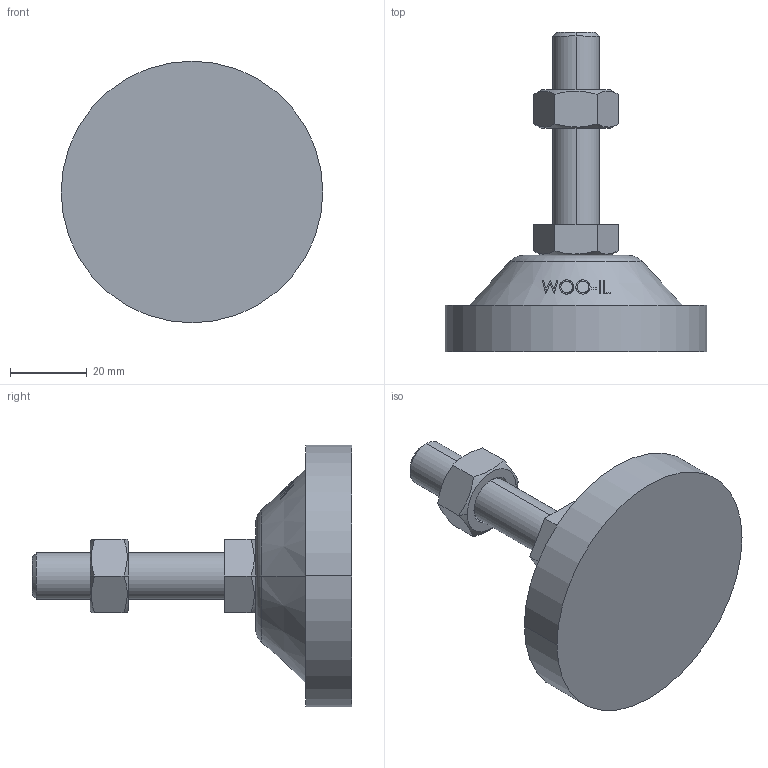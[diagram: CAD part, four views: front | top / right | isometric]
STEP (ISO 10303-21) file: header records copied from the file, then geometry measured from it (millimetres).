
FILE_DESCRIPTION (( 'STEP AP214' ), '1' );
FILE_NAME ('RL68-M12-50.step', '2021-01-06T08:17:21', ( '' ), ( '' ), 'SwSTEP 2.0', 'SolidWorks 2019', '' );
FILE_SCHEMA (( 'AUTOMOTIVE_DESIGN' ));
Length unit declared in the file: millimetre
Products named in the file (1): RL68-M12-50
Bounding box: 68 x 83 x 68 mm (x, y, z)
Volume: 73337.5 mm3; surface area: 14933.2 mm2
Topology: 3 solids, 3 shells, 93 faces, 217 edges, 140 vertices
Faces by surface type: plane 47, cone 22, bspline 16, cylinder 6, torus 2
Entity records: 4047 total; most frequent: CARTESIAN_POINT 2015, ORIENTED_EDGE 434, DIRECTION 349, EDGE_CURVE 217, VERTEX_POINT 140, AXIS2_PLACEMENT_3D 134, EDGE_LOOP 105, FACE_OUTER_BOUND 93
